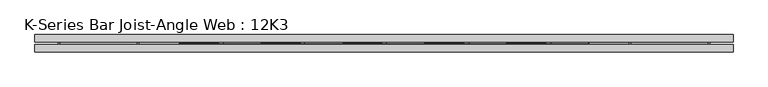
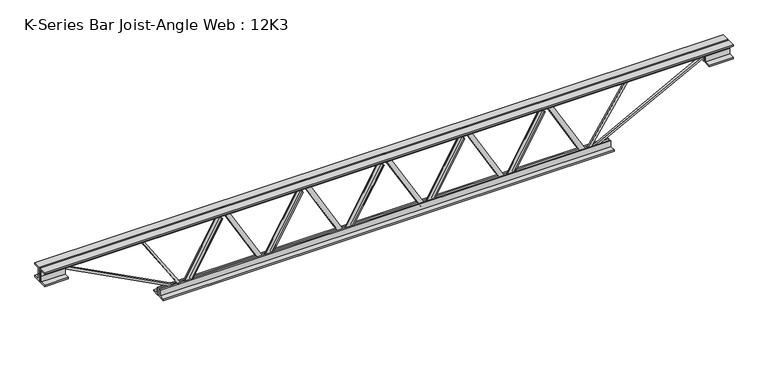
"""IFC4 building model written with IfcOpenShell, lengths in millimetres: beam geometry, K-Series Bar Joist-Angle Web : 12K3."""

from ifc_helpers import new_model, si_unit, frame, origin, place, context, project, spatial, polyline, outline, extrude, faceted_brep, source, transform, mapped, element, save


def k_series_bar_joist_angle_web_12k3_13094d3f(model_context):
    return source(origin(), model_context, "Body", "SolidModel", [
        extrude(outline(polyline([(-4.7625, 4.7625), (-4.7625, 0.0), (-17.4625, 0.0), (-17.4625, 4.7625), (-4.7625, 4.7625)])), frame((486.2861554, 0.0, -114.3), z_axis=(-0.496988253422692, 0.0, 0.8677572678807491), x_axis=(0.0, -1.0, 0.0)), (0.0, 0.0, 1.0), 263.4377244),
        extrude(outline(polyline([(-149.225, 518.16), (-130.175, 518.16), (-130.175, 517.3313446), (149.225, 357.3113446), (149.225, 339.09), (130.175, 339.09), (130.175, 346.2686554), (-149.225, 506.2886554), (-149.225, 518.16)])), frame((0.0, 0.0, 0.0), z_axis=(0.0, 1.0, 0.0), x_axis=(0.0, 0.0, 1.0)), (0.0, 0.0, 1.0), 4.7625),
        faceted_brep([(172.72, 0.0, -130.175), (172.72, 0.0, -149.225), (172.72, -4.7625, -149.225), (172.72, -4.7625, -130.175), (173.5486554, 0.0, -130.175), (333.5686554, 0.0, 149.225), (351.79, 0.0, 149.225), (351.79, 0.0, 130.175), (344.6113446, 0.0, 130.175), (184.5913446, 0.0, -149.225), (184.5913446, -4.7625, -149.225), (204.5938446, -4.7625, -114.3), (200.4611506, -4.7625, -111.9330934), (331.3866051, -4.7625, 116.6669066), (335.5192991, -4.7625, 114.3), (344.6113446, -4.7625, 130.175), (351.79, -4.7625, 130.175), (351.79, -4.7625, 149.225), (333.5686554, -4.7625, 149.225), (173.5486554, -4.7625, -130.175), (335.5192991, -17.4625, 114.3), (204.5938446, -17.4625, -114.3), (200.4611506, -17.4625, -111.9330934), (331.3866051, -17.4625, 116.6669066)], [[[0, 1, 2, 3]], [[1, 0, 4, 5, 6, 7, 8, 9]], [[2, 1, 9, 10]], [[3, 2, 10, 11, 12, 13, 14, 15, 16, 17, 18, 19]], [[0, 3, 19, 4]], [[9, 8, 15, 14, 20, 21, 11, 10]], [[5, 4, 19, 18]], [[7, 6, 17, 16]], [[8, 7, 16, 15]], [[6, 5, 18, 17]], [[21, 22, 12, 11]], [[20, 14, 13, 23]], [[22, 21, 20, 23]], [[12, 22, 23, 13]]]),
        extrude(outline(polyline([(-4.7625, 4.7625), (-4.7625, 0.0), (-17.4625, 0.0), (-17.4625, 4.7625), (-4.7625, 4.7625)])), frame((140.8461554, 0.0, -114.3), z_axis=(-0.496988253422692, 0.0, 0.8677572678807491), x_axis=(0.0, -1.0, 0.0)), (0.0, 0.0, 1.0), 263.4377244),
        extrude(outline(polyline([(-149.225, 172.72), (-130.175, 172.72), (-130.175, 171.8913446), (149.225, 11.8713446), (149.225, -6.35), (130.175, -6.35), (130.175, 0.8286554), (-149.225, 160.8486554), (-149.225, 172.72)])), frame((0.0, 0.0, 0.0), z_axis=(0.0, 1.0, 0.0), x_axis=(0.0, 0.0, 1.0)), (0.0, 0.0, 1.0), 4.7625),
        faceted_brep([(-172.72, 0.0, -130.175), (-172.72, 0.0, -149.225), (-172.72, -4.7625, -149.225), (-172.72, -4.7625, -130.175), (-171.8913446, 0.0, -130.175), (-11.8713446, 0.0, 149.225), (6.35, 0.0, 149.225), (6.35, 0.0, 130.175), (-0.8286554, 0.0, 130.175), (-160.8486554, 0.0, -149.225), (-160.8486554, -4.7625, -149.225), (-140.8461554, -4.7625, -114.3), (-144.9788494, -4.7625, -111.9330934), (-14.0533949, -4.7625, 116.6669066), (-9.9207009, -4.7625, 114.3), (-0.8286554, -4.7625, 130.175), (6.35, -4.7625, 130.175), (6.35, -4.7625, 149.225), (-11.8713446, -4.7625, 149.225), (-171.8913446, -4.7625, -130.175), (-9.9207009, -17.4625, 114.3), (-140.8461554, -17.4625, -114.3), (-144.9788494, -17.4625, -111.9330934), (-14.0533949, -17.4625, 116.6669066)], [[[0, 1, 2, 3]], [[1, 0, 4, 5, 6, 7, 8, 9]], [[2, 1, 9, 10]], [[3, 2, 10, 11, 12, 13, 14, 15, 16, 17, 18, 19]], [[0, 3, 19, 4]], [[9, 8, 15, 14, 20, 21, 11, 10]], [[5, 4, 19, 18]], [[7, 6, 17, 16]], [[8, 7, 16, 15]], [[6, 5, 18, 17]], [[21, 22, 12, 11]], [[20, 14, 13, 23]], [[22, 21, 20, 23]], [[12, 22, 23, 13]]]),
        extrude(outline(polyline([(-4.7625, 4.7625), (-4.7625, 0.0), (-17.4625, 0.0), (-17.4625, 4.7625), (-4.7625, 4.7625)])), frame((-204.5938446, 0.0, -114.3), z_axis=(-0.496988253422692, 0.0, 0.8677572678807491), x_axis=(0.0, -1.0, 0.0)), (0.0, 0.0, 1.0), 263.4377244),
        extrude(outline(polyline([(-149.225, -172.72), (-130.175, -172.72), (-130.175, -173.5486554), (149.225, -333.5686554), (149.225, -351.79), (130.175, -351.79), (130.175, -344.6113446), (-149.225, -184.5913446), (-149.225, -172.72)])), frame((0.0, 0.0, 0.0), z_axis=(0.0, 1.0, 0.0), x_axis=(0.0, 0.0, 1.0)), (0.0, 0.0, 1.0), 4.7625),
        faceted_brep([(-518.16, 0.0, -130.175), (-518.16, 0.0, -149.225), (-518.16, -4.7625, -149.225), (-518.16, -4.7625, -130.175), (-517.3313446, 0.0, -130.175), (-357.3113446, 0.0, 149.225), (-339.09, 0.0, 149.225), (-339.09, 0.0, 130.175), (-346.2686554, 0.0, 130.175), (-506.2886554, 0.0, -149.225), (-506.2886554, -4.7625, -149.225), (-486.2861554, -4.7625, -114.3), (-490.4188494, -4.7625, -111.9330934), (-359.4933949, -4.7625, 116.6669066), (-355.3607009, -4.7625, 114.3), (-346.2686554, -4.7625, 130.175), (-339.09, -4.7625, 130.175), (-339.09, -4.7625, 149.225), (-357.3113446, -4.7625, 149.225), (-517.3313446, -4.7625, -130.175), (-355.3607009, -17.4625, 114.3), (-486.2861554, -17.4625, -114.3), (-490.4188494, -17.4625, -111.9330934), (-359.4933949, -17.4625, 116.6669066)], [[[0, 1, 2, 3]], [[1, 0, 4, 5, 6, 7, 8, 9]], [[2, 1, 9, 10]], [[3, 2, 10, 11, 12, 13, 14, 15, 16, 17, 18, 19]], [[0, 3, 19, 4]], [[9, 8, 15, 14, 20, 21, 11, 10]], [[5, 4, 19, 18]], [[7, 6, 17, 16]], [[8, 7, 16, 15]], [[6, 5, 18, 17]], [[21, 22, 12, 11]], [[20, 14, 13, 23]], [[22, 21, 20, 23]], [[12, 22, 23, 13]]]),
        extrude(outline(polyline([(-4.7625, 4.7625), (-4.7625, 0.0), (-17.4625, 0.0), (-17.4625, 4.7625), (-4.7625, 4.7625)])), frame((831.7261554, 0.0, -114.3), z_axis=(-0.496988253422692, 0.0, 0.8677572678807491), x_axis=(0.0, -1.0, 0.0)), (0.0, 0.0, 1.0), 263.4377244),
        extrude(outline(polyline([(-149.225, 863.6), (-130.175, 863.6), (-130.175, 862.7713446), (149.225, 702.7513446), (149.225, 684.53), (130.175, 684.53), (130.175, 691.7086554), (-149.225, 851.7286554), (-149.225, 863.6)])), frame((0.0, 0.0, 0.0), z_axis=(0.0, 1.0, 0.0), x_axis=(0.0, 0.0, 1.0)), (0.0, 0.0, 1.0), 4.7625),
        faceted_brep([(518.16, 0.0, -130.175), (518.16, 0.0, -149.225), (518.16, -4.7625, -149.225), (518.16, -4.7625, -130.175), (518.9886554, 0.0, -130.175), (679.0086554, 0.0, 149.225), (697.23, 0.0, 149.225), (697.23, 0.0, 130.175), (690.0513446, 0.0, 130.175), (530.0313446, 0.0, -149.225), (530.0313446, -4.7625, -149.225), (550.0338446, -4.7625, -114.3), (545.9011506, -4.7625, -111.9330934), (676.8266051, -4.7625, 116.6669066), (680.9592991, -4.7625, 114.3), (690.0513446, -4.7625, 130.175), (697.23, -4.7625, 130.175), (697.23, -4.7625, 149.225), (679.0086554, -4.7625, 149.225), (518.9886554, -4.7625, -130.175), (680.9592991, -17.4625, 114.3), (550.0338446, -17.4625, -114.3), (545.9011506, -17.4625, -111.9330934), (676.8266051, -17.4625, 116.6669066)], [[[0, 1, 2, 3]], [[1, 0, 4, 5, 6, 7, 8, 9]], [[2, 1, 9, 10]], [[3, 2, 10, 11, 12, 13, 14, 15, 16, 17, 18, 19]], [[0, 3, 19, 4]], [[9, 8, 15, 14, 20, 21, 11, 10]], [[5, 4, 19, 18]], [[7, 6, 17, 16]], [[8, 7, 16, 15]], [[6, 5, 18, 17]], [[21, 22, 12, 11]], [[20, 14, 13, 23]], [[22, 21, 20, 23]], [[12, 22, 23, 13]]]),
        extrude(outline(polyline([(-4.7625, 4.7625), (-4.7625, 0.0), (-17.4625, 0.0), (-17.4625, 4.7625), (-4.7625, 4.7625)])), frame((-550.0338446, 0.0, -114.3), z_axis=(-0.496988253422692, 0.0, 0.8677572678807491), x_axis=(0.0, -1.0, 0.0)), (0.0, 0.0, 1.0), 263.4377244),
        extrude(outline(polyline([(-149.225, -518.16), (-130.175, -518.16), (-130.175, -518.9886554), (149.225, -679.0086554), (149.225, -697.23), (130.175, -697.23), (130.175, -690.0513446), (-149.225, -530.0313446), (-149.225, -518.16)])), frame((0.0, 0.0, 0.0), z_axis=(0.0, 1.0, 0.0), x_axis=(0.0, 0.0, 1.0)), (0.0, 0.0, 1.0), 4.7625),
        faceted_brep([(-863.6, 0.0, -130.175), (-863.6, 0.0, -149.225), (-863.6, -4.7625, -149.225), (-863.6, -4.7625, -130.175), (-862.7713446, 0.0, -130.175), (-702.7513446, 0.0, 149.225), (-684.53, 0.0, 149.225), (-684.53, 0.0, 130.175), (-691.7086554, 0.0, 130.175), (-851.7286554, 0.0, -149.225), (-851.7286554, -4.7625, -149.225), (-831.7261554, -4.7625, -114.3), (-835.8588494, -4.7625, -111.9330934), (-704.9333949, -4.7625, 116.6669066), (-700.8007009, -4.7625, 114.3), (-691.7086554, -4.7625, 130.175), (-684.53, -4.7625, 130.175), (-684.53, -4.7625, 149.225), (-702.7513446, -4.7625, 149.225), (-862.7713446, -4.7625, -130.175), (-700.8007009, -17.4625, 114.3), (-831.7261554, -17.4625, -114.3), (-835.8588494, -17.4625, -111.9330934), (-704.9333949, -17.4625, 116.6669066)], [[[0, 1, 2, 3]], [[1, 0, 4, 5, 6, 7, 8, 9]], [[2, 1, 9, 10]], [[3, 2, 10, 11, 12, 13, 14, 15, 16, 17, 18, 19]], [[0, 3, 19, 4]], [[9, 8, 15, 14, 20, 21, 11, 10]], [[5, 4, 19, 18]], [[7, 6, 17, 16]], [[8, 7, 16, 15]], [[6, 5, 18, 17]], [[21, 22, 12, 11]], [[20, 14, 13, 23]], [[22, 21, 20, 23]], [[12, 22, 23, 13]]]),
        extrude(outline(polyline([(4.7625, 152.4), (36.5125, 152.4), (36.5125, 146.05), (11.1125, 146.05), (11.1125, 120.65), (4.7625, 120.65), (4.7625, 152.4)])), frame((-1473.2, 0.0, 0.0), z_axis=(1.0, 0.0, 0.0), x_axis=(0.0, 1.0, 0.0)), (0.0, 0.0, 1.0), 2946.4),
        extrude(outline(polyline([(-4.7625, 152.4), (-4.7625, 120.65), (-11.1125, 120.65), (-11.1125, 146.05), (-36.5125, 146.05), (-36.5125, 152.4), (-4.7625, 152.4)])), frame((-1473.2, 0.0, 0.0), z_axis=(1.0, 0.0, 0.0), x_axis=(0.0, 1.0, 0.0)), (0.0, 0.0, 1.0), 2946.4),
        extrude(outline(polyline([(-4.7625, 88.9), (-36.5125, 88.9), (-36.5125, 95.25), (-11.1125, 95.25), (-11.1125, 120.65), (-4.7625, 120.65), (-4.7625, 88.9)])), frame((-1473.2, 0.0, 0.0), z_axis=(1.0, 0.0, 0.0), x_axis=(0.0, 1.0, 0.0)), (0.0, 0.0, 1.0), 101.6),
        extrude(outline(polyline([(36.5125, 88.9), (4.7625, 88.9), (4.7625, 120.65), (11.1125, 120.65), (11.1125, 95.25), (36.5125, 95.25), (36.5125, 88.9)])), frame((-1473.2, 0.0, 0.0), z_axis=(1.0, 0.0, 0.0), x_axis=(0.0, 1.0, 0.0)), (0.0, 0.0, 1.0), 101.6),
        extrude(outline(polyline([(4.7625, 88.9), (4.7625, 120.65), (11.1125, 120.65), (11.1125, 95.25), (36.5125, 95.25), (36.5125, 88.9), (4.7625, 88.9)])), frame((1371.6, 0.0, 0.0), z_axis=(1.0, 0.0, 0.0), x_axis=(0.0, 1.0, 0.0)), (0.0, 0.0, 1.0), 101.6),
        extrude(outline(polyline([(-4.7625, 88.9), (-36.5125, 88.9), (-36.5125, 95.25), (-11.1125, 95.25), (-11.1125, 120.65), (-4.7625, 120.65), (-4.7625, 88.9)])), frame((1371.6, 0.0, 0.0), z_axis=(1.0, 0.0, 0.0), x_axis=(0.0, 1.0, 0.0)), (0.0, 0.0, 1.0), 101.6),
        extrude(outline(polyline([(4.7625, -152.4), (4.7625, -120.65), (11.1125, -120.65), (11.1125, -146.05), (36.5125, -146.05), (36.5125, -152.4), (4.7625, -152.4)])), frame((-965.2, 0.0, 0.0), z_axis=(1.0, 0.0, 0.0), x_axis=(0.0, 1.0, 0.0)), (0.0, 0.0, 1.0), 1930.4),
        extrude(outline(polyline([(-4.7625, -152.4), (-36.5125, -152.4), (-36.5125, -146.05), (-11.1125, -146.05), (-11.1125, -120.65), (-4.7625, -120.65), (-4.7625, -152.4)])), frame((-965.2, 0.0, 0.0), z_axis=(1.0, 0.0, 0.0), x_axis=(0.0, 1.0, 0.0)), (0.0, 0.0, 1.0), 1930.4),
        extrude(outline(polyline([(4.7625, 4.7625001), (4.7625, -4.7625001), (-4.7625, -4.7625001), (-4.7625, 4.7625001), (4.7625, 4.7625001)])), frame((863.6, 0.0, -146.05), z_axis=(0.543582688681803, 0.0, 0.8393556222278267), x_axis=(0.0, -1.0, 0.0)), (0.0, 0.0, 1.0), 317.7437464),
        extrude(outline(polyline([(4.7625, 4.7625001), (4.7625, -4.7625001), (-4.7625, -4.7625001), (-4.7625, 4.7625001), (4.7625, 4.7625001)])), frame((-863.6, 0.0, -146.05), z_axis=(-0.5435826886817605, 0.0, 0.8393556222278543), x_axis=(0.0, -1.0, 0.0)), (0.0, 0.0, 1.0), 317.7437464),
        extrude(outline(polyline([(0.0, -9.525), (0.0, 0.0), (573.7533355, 0.0), (573.7533355, -9.525), (0.0, -9.525)])), frame((1373.8137714, -4.7625, 116.4332925), z_axis=(-0.46483389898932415, 0.0, 0.8853979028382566), x_axis=(-0.8853979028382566, 0.0, -0.46483389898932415)), (0.0, 0.0, 1.0), 9.525),
        extrude(outline(polyline([(0.0, -9.525), (0.0, 0.0), (573.7533355, 0.0), (573.7533355, -9.525), (0.0, -9.525)])), frame((-1373.8137714, 4.7625, 116.4332925), z_axis=(0.4648338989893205, 0.0, 0.8853979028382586), x_axis=(0.8853979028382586, 0.0, -0.4648338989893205)), (0.0, 0.0, 1.0), 9.525),
    ])


if __name__ == "__main__":
    model = new_model("IFC4")
    model_context = context("Model", 3, world=origin())
    ifc_project = project(units=[si_unit("LENGTHUNIT", "METRE", prefix="MILLI")], contexts=[model_context])
    site = spatial("IfcSite", under=ifc_project)
    building = spatial("IfcBuilding", under=site)
    placement = place(None, origin())
    k_series_bar_joist_angle_web_12k3_shape = k_series_bar_joist_angle_web_12k3_13094d3f(model_context)
    element("IfcBeam", 1, ObjectType="K-Series Bar Joist-Angle Web : 12K3", at=placement, inside=building, context=model_context, shape_type="MappedRepresentation", body=[
        mapped(k_series_bar_joist_angle_web_12k3_shape, transform((0.0, 0.0, 0.0), x_axis=(1.0, 0.0, 0.0), y_axis=(0.0, 1.0, 0.0), z_axis=(0.0, 0.0, 1.0))),
    ])
    save(model, "model.ifc")
